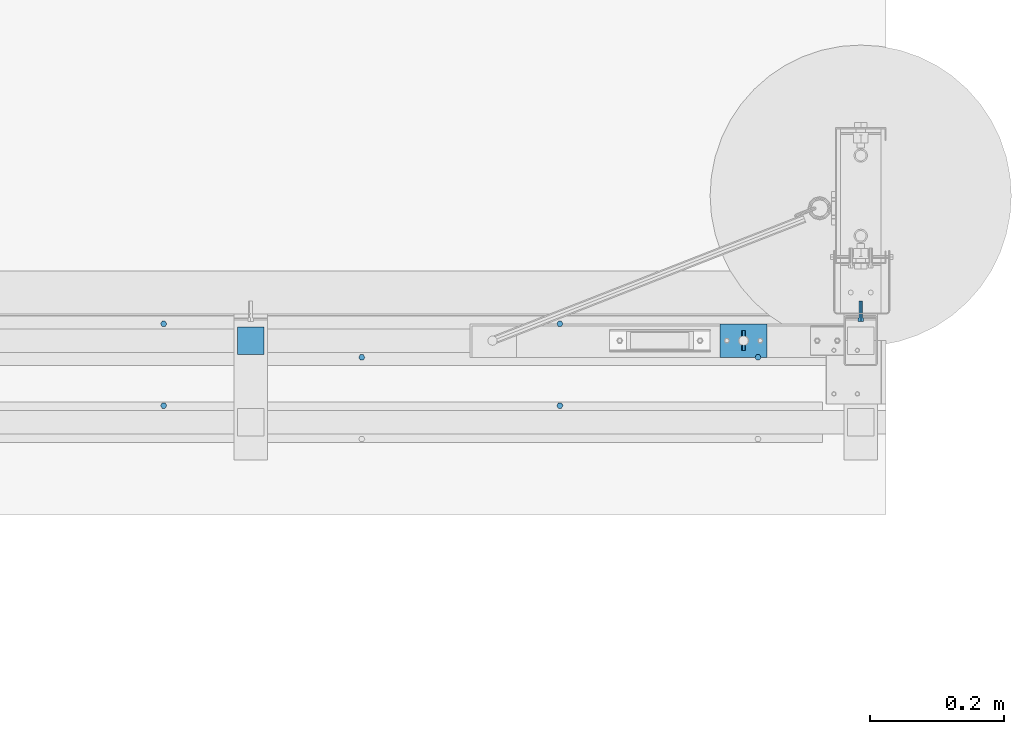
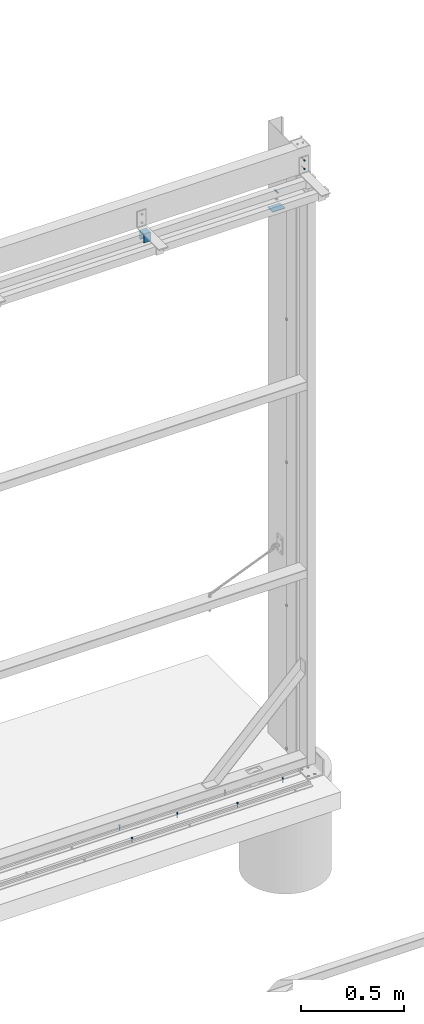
# One storey, part 68 of 91: 7 mechanical fasteners, 3 discrete accessories, 5 elements without a shape of their own.
"""IFC2X3 building model written with IfcOpenShell, lengths in millimetres."""

from ifc_helpers import new_model, si_unit, frame, origin_with_axes, origin_2d_with_axis, place, context, subcontext, project, spatial, polyline, circle, c_section, outline, extrude, source, transform, mapped, material, type_object, element, aggregate, save


model = new_model("IFC2X3")

# Units and contexts
model_context = context("Model", 3, precision=1e-05, world=origin_with_axes())
body_context = subcontext(model_context, "Body", "Model", "MODEL_VIEW")
ifc_project = project(units=[si_unit("LENGTHUNIT", "METRE", prefix="MILLI"), si_unit("AREAUNIT", "SQUARE_METRE"), si_unit("VOLUMEUNIT", "CUBIC_METRE"), si_unit("MASSUNIT", "GRAM", prefix="KILO"), si_unit("TIMEUNIT", "SECOND"), si_unit("PLANEANGLEUNIT", "RADIAN"), si_unit("SOLIDANGLEUNIT", "STERADIAN"), si_unit("THERMODYNAMICTEMPERATUREUNIT", "DEGREE_CELSIUS"), si_unit("LUMINOUSINTENSITYUNIT", "LUMEN")], contexts=[model_context])

# Site, building, storey
site_placement = place(None, origin_with_axes())
site = spatial("IfcSite", under=ifc_project, at=site_placement, Name="Undefined", CompositionType="ELEMENT")
building_placement = place(site_placement, origin_with_axes())
building = spatial("IfcBuilding", under=site, at=building_placement, Name="Undefined", CompositionType="ELEMENT")
storey_placement = place(building_placement, origin_with_axes())
storey = spatial("IfcBuildingStorey", under=building, at=storey_placement, Name="Undefined", CompositionType="ELEMENT", Elevation=0.0)

# Assembly, discrete accessories
assembly_1_placement = place(storey_placement, origin_with_axes())
assembly_1 = element("IfcElementAssembly", 1, at=assembly_1_placement, inside=storey, Name="ROD", AssemblyPlace="NOTDEFINED", PredefinedType="RIGID_FRAME")
ifc_material_1 = material(Name="STEEL/250")
discrete_accessory_type_1 = type_object("IfcDiscreteAccessoryType", Name="PLATE")
discrete_accessory_1_placement = place(assembly_1_placement, frame((-107893.34, 87737.15, 3324.5), z_axis=(0.0, 0.0, 1.0), x_axis=(0.0, -1.0, 0.0)))
discrete_accessory_1 = element("IfcDiscreteAccessory", 2, at=discrete_accessory_1_placement, type_object=discrete_accessory_type_1, material=ifc_material_1, Name="PLATE", ObjectType="PLT3*50", context=body_context, shape_type="SweptSolid", body=[
    extrude(outline(polyline([(0.0, 0.0), (50.0, 0.0), (50.0, 70.0), (0.0, 70.0), (0.0, 0.0)])), frame((0.0, 0.0, -1.5), z_axis=(0.0, 0.0, 1.0), x_axis=(1.0, 0.0, 0.0)), (0.0, 0.0, 1.0), 3.0),
])
discrete_accessory_type_2 = type_object("IfcDiscreteAccessoryType", Name="SPRING PIN")
discrete_accessory_2_placement = place(assembly_1_placement, frame((-107858.34, 87697.15, 3421.0), z_axis=(1.0, 0.0, 0.0), x_axis=(0.0, 1.0, 0.0)))
discrete_accessory_2 = element("IfcDiscreteAccessory", 3, at=discrete_accessory_2_placement, type_object=discrete_accessory_type_2, material=ifc_material_1, Name="SPRING PIN", ObjectType="D6", context=body_context, shape_type="SweptSolid", body=[
    extrude(circle(Radius=3.0, at=origin_2d_with_axis()), frame((30.0, 0.0, 0.0), z_axis=(-1.0, 0.0, 0.0), x_axis=(0.0, -1.0, 0.0)), (0.0, 0.0, 1.0), 30.0),
])
aggregate(assembly_1, [discrete_accessory_2, discrete_accessory_1])

# Assembly, mechanical fastener
assembly_2_placement = place(storey_placement, origin_with_axes())
assembly_2 = element("IfcElementAssembly", 4, at=assembly_2_placement, inside=storey, Name="DOOR BRACKET", AssemblyPlace="NOTDEFINED", PredefinedType="RIGID_FRAME")
ifc_material_2 = material(Name="TEK_11TPIM")
discrete_accessory_type_3 = type_object("IfcDiscreteAccessoryType", Name="Bolt assembly")
shared_shape_1 = source(origin_with_axes(), body_context, "Body", "SweptSolid", [
    extrude(circle(Radius=3.0, at=origin_2d_with_axis()), frame((0.0, -6.0, 0.0), z_axis=(0.0, 1.0, 0.0), x_axis=(1.0, 0.0, 0.0)), (0.0, 0.0, 1.0), 6.1),
    extrude(outline(polyline([(4.61880215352, 0.0), (2.30940107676, 4.00000000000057), (-2.30940107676, 4.00000000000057), (-4.61880215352, 0.0), (-2.30940107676, -4.00000000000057), (2.30940107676, -4.00000000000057), (4.61880215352, 0.0)])), frame((0.0, -11.1000000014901, 0.0), z_axis=(0.0, 1.0, 0.0), x_axis=(1.0, 0.0, 0.0)), (0.0, 0.0, 1.0), 5.0),
    extrude(circle(Radius=3.0, at=origin_2d_with_axis()), frame((0.0, -6.10000000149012, 0.0), z_axis=(0.0, 1.0, 0.0), x_axis=(1.0, 0.0, 0.0)), (0.0, 0.0, 1.0), 25.0),
    extrude(circle(Radius=3.0, at=origin_2d_with_axis()), frame((0.0, -6.10000000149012, 0.0), z_axis=(0.0, 1.0, 0.0), x_axis=(1.0, 0.0, 0.0)), (0.0, 0.0, 1.0), 0.1),
    extrude(circle(Radius=3.0, at=origin_2d_with_axis()), frame((0.0, 0.0, 0.0), z_axis=(0.0, 1.0, 0.0), x_axis=(1.0, 0.0, 0.0)), (0.0, 0.0, 1.0), 0.1),
    extrude(outline(polyline([(3.46410161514, 0.0), (1.73205080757, 3.00000000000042), (-1.73205080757, 3.00000000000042), (-3.46410161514, 0.0), (-1.73205080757, -3.00000000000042), (1.73205080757, -3.00000000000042), (3.46410161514, 0.0)])), frame((0.0, 0.1, 0.0), z_axis=(0.0, 1.0, 0.0), x_axis=(1.0, 0.0, 0.0)), (0.0, 0.0, 1.0), 0.1),
])
mechanical_fastener_1_placement = place(assembly_2_placement, frame((-107683.34, 87752.15, 3524.0), z_axis=(1.0, 0.0, 0.0), x_axis=(0.0, 0.0, -1.0)))
mechanical_fastener_1 = element("IfcMechanicalFastener", 5, at=mechanical_fastener_1_placement, type_object=discrete_accessory_type_3, material=ifc_material_2, Name="Bolt assembly", NominalDiameter=6.0, NominalLength=25.0, context=body_context, shape_type="MappedRepresentation", body=[
    mapped(shared_shape_1, transform((0.0, 0.0, 0.0))),
    mapped(shared_shape_1, transform((50.0, 0.0, 0.0))),
])
aggregate(assembly_2, [mechanical_fastener_1])

# Assembly, mechanical fasteners
assembly_3_placement = place(storey_placement, origin_with_axes())
assembly_3 = element("IfcElementAssembly", 6, at=assembly_3_placement, inside=storey, Name="DOOR TRACK", AssemblyPlace="NOTDEFINED", PredefinedType="RIGID_FRAME")
ifc_material_3 = material(Name="TEK_10TPII")
shared_shape_2 = source(origin_with_axes(), body_context, "Body", "SweptSolid", [
    extrude(circle(Radius=4.07999992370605, at=origin_2d_with_axis()), frame((0.0, 0.0, 0.0), z_axis=(0.0, 1.0, 0.0), x_axis=(1.0, 0.0, 0.0)), (0.0, 0.0, 1.0), 3.1),
    extrude(outline(polyline([(4.61880215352, 0.0), (2.30940107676, 4.00000000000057), (-2.30940107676, 4.00000000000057), (-4.61880215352, 0.0), (-2.30940107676, -4.00000000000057), (2.30940107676, -4.00000000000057), (4.61880215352, 0.0)])), frame((0.0, -5.0, 0.0), z_axis=(0.0, 1.0, 0.0), x_axis=(1.0, 0.0, 0.0)), (0.0, 0.0, 1.0), 5.0),
    extrude(circle(Radius=3.07999992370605, at=origin_2d_with_axis()), frame((0.0, 0.0, 0.0), z_axis=(0.0, 1.0, 0.0), x_axis=(1.0, 0.0, 0.0)), (0.0, 0.0, 1.0), 25.0),
    extrude(circle(Radius=3.0, at=origin_2d_with_axis()), frame((0.0, 3.0, 0.0), z_axis=(0.0, 1.0, 0.0), x_axis=(1.0, 0.0, 0.0)), (0.0, 0.0, 1.0), 0.1),
    extrude(outline(polyline([(3.46410161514, 0.0), (1.73205080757, 3.00000000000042), (-1.73205080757, 3.00000000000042), (-3.46410161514, 0.0), (-1.73205080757, -3.00000000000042), (1.73205080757, -3.00000000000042), (3.46410161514, 0.0)])), frame((0.0, 3.10000000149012, 0.0), z_axis=(0.0, 1.0, 0.0), x_axis=(1.0, 0.0, 0.0)), (0.0, 0.0, 1.0), 0.1),
])
mechanical_fastener_2_placement = place(assembly_3_placement, frame((-107836.84, 87687.151953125, -54.0), z_axis=(0.0, 1.0, 0.0), x_axis=(1.0, 0.0, 0.0)))
mechanical_fastener_2 = element("IfcMechanicalFastener", 7, at=mechanical_fastener_2_placement, type_object=discrete_accessory_type_3, material=ifc_material_3, Name="Bolt assembly", NominalDiameter=6.15999984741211, NominalLength=25.0, context=body_context, shape_type="MappedRepresentation", body=[
    mapped(shared_shape_2, transform((0.0, 0.0, 0.0))),
])
mechanical_fastener_3_placement = place(assembly_3_placement, frame((-108132.74, 87737.151953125, -54.0), z_axis=(0.0, 1.0, 0.0), x_axis=(1.0, 0.0, 0.0)))
mechanical_fastener_3 = element("IfcMechanicalFastener", 8, at=mechanical_fastener_3_placement, type_object=discrete_accessory_type_3, material=ifc_material_3, Name="Bolt assembly", NominalDiameter=6.15999984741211, NominalLength=25.0, context=body_context, shape_type="MappedRepresentation", body=[
    mapped(shared_shape_2, transform((0.0, 0.0, 0.0))),
])
mechanical_fastener_4_placement = place(assembly_3_placement, frame((-108428.64, 87687.151953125, -54.0), z_axis=(0.0, 1.0, 0.0), x_axis=(1.0, 0.0, 0.0)))
mechanical_fastener_4 = element("IfcMechanicalFastener", 9, at=mechanical_fastener_4_placement, type_object=discrete_accessory_type_3, material=ifc_material_3, Name="Bolt assembly", NominalDiameter=6.15999984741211, NominalLength=25.0, context=body_context, shape_type="MappedRepresentation", body=[
    mapped(shared_shape_2, transform((0.0, 0.0, 0.0))),
])
mechanical_fastener_5_placement = place(assembly_3_placement, frame((-108724.54, 87737.151953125, -54.0), z_axis=(0.0, 1.0, 0.0), x_axis=(1.0, 0.0, 0.0)))
mechanical_fastener_5 = element("IfcMechanicalFastener", 10, at=mechanical_fastener_5_placement, type_object=discrete_accessory_type_3, material=ifc_material_3, Name="Bolt assembly", NominalDiameter=6.15999984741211, NominalLength=25.0, context=body_context, shape_type="MappedRepresentation", body=[
    mapped(shared_shape_2, transform((0.0, 0.0, 0.0))),
])
aggregate(assembly_3, [mechanical_fastener_2, mechanical_fastener_3, mechanical_fastener_4, mechanical_fastener_5])

assembly_4_placement = place(storey_placement, origin_with_axes())
assembly_4 = element("IfcElementAssembly", 11, at=assembly_4_placement, inside=storey, Name="DOOR TRACK", AssemblyPlace="NOTDEFINED", PredefinedType="RIGID_FRAME")
mechanical_fastener_6_placement = place(assembly_4_placement, frame((-108132.74, 87615.151953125, -54.0), z_axis=(0.0, 1.0, 0.0), x_axis=(1.0, 0.0, 0.0)))
mechanical_fastener_6 = element("IfcMechanicalFastener", 12, at=mechanical_fastener_6_placement, type_object=discrete_accessory_type_3, material=ifc_material_3, Name="Bolt assembly", NominalDiameter=6.15999984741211, NominalLength=25.0, context=body_context, shape_type="MappedRepresentation", body=[
    mapped(shared_shape_2, transform((0.0, 0.0, 0.0))),
])
mechanical_fastener_7_placement = place(assembly_4_placement, frame((-108724.54, 87615.151953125, -54.0), z_axis=(0.0, 1.0, 0.0), x_axis=(1.0, 0.0, 0.0)))
mechanical_fastener_7 = element("IfcMechanicalFastener", 13, at=mechanical_fastener_7_placement, type_object=discrete_accessory_type_3, material=ifc_material_3, Name="Bolt assembly", NominalDiameter=6.15999984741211, NominalLength=25.0, context=body_context, shape_type="MappedRepresentation", body=[
    mapped(shared_shape_2, transform((0.0, 0.0, 0.0))),
])
aggregate(assembly_4, [mechanical_fastener_6, mechanical_fastener_7])

# Assembly, discrete accessory
assembly_5_placement = place(storey_placement, origin_with_axes())
assembly_5 = element("IfcElementAssembly", 14, at=assembly_5_placement, inside=storey, Name="DOOR BRACKET", AssemblyPlace="NOTDEFINED", PredefinedType="RIGID_FRAME")
discrete_accessory_type_4 = type_object("IfcDiscreteAccessoryType", Name="SLIDING DOOR BRACKET")
discrete_accessory_3_placement = place(assembly_5_placement, frame((-108614.59, 87712.15, 3417.5), z_axis=(0.0, -1.0, 0.0), x_axis=(1.0, 0.0, 0.0)))
discrete_accessory_3 = element("IfcDiscreteAccessory", 15, at=discrete_accessory_3_placement, type_object=discrete_accessory_type_4, material=ifc_material_1, Name="SLIDING DOOR BRACKET", ObjectType="CC41-1.5-7-53", context=body_context, shape_type="SweptSolid", body=[
    extrude(c_section(Depth=41.0, Width=53.0, WallThickness=1.5, Girth=7.0, at=origin_2d_with_axis()), frame((40.0, 0.0, 0.0), z_axis=(-1.0, 0.0, 0.0), x_axis=(0.0, -1.0, 0.0)), (0.0, 0.0, 1.0), 40.0),
])
aggregate(assembly_5, [discrete_accessory_3])

save(model, "model.ifc")
